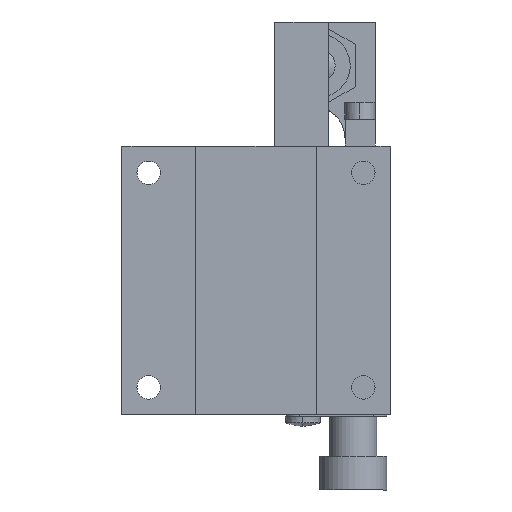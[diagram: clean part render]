
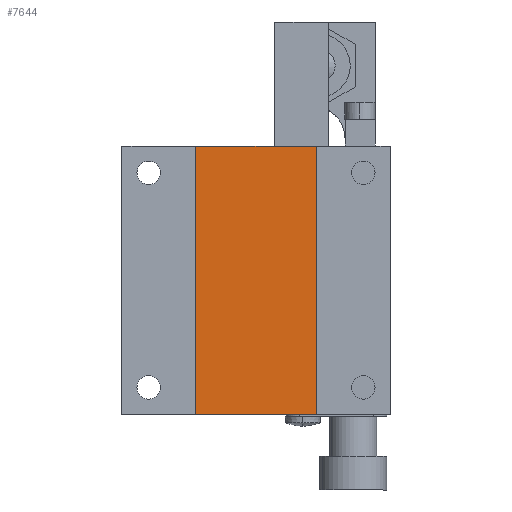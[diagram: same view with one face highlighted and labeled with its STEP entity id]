
A CAD part, front view. The second image highlights one B-rep face of the part: STEP entity #7644.
In plain terms, the highlighted planar face has unit normal (0, -1, 0).
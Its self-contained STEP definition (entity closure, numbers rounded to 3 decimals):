
#2006 = CARTESIAN_POINT ( 'NONE',  ( -9., 0.5, 20. ) ) ;
#2448 = DIRECTION ( 'NONE',  ( 0., 0., 1. ) ) ;
#2449 = VECTOR ( 'NONE', #2448, 1000. ) ;
#2450 = CARTESIAN_POINT ( 'NONE',  ( 9., 0.5, -20. ) ) ;
#2451 = LINE ( 'NONE', #2450, #2449 ) ;
#2554 = CARTESIAN_POINT ( 'NONE',  ( 9., 0.5, 20. ) ) ;
#2555 = DIRECTION ( 'NONE',  ( -1., 0., 0. ) ) ;
#2556 = VECTOR ( 'NONE', #2555, 1000. ) ;
#2557 = CARTESIAN_POINT ( 'NONE',  ( 9., 0.5, 20. ) ) ;
#2558 = LINE ( 'NONE', #2557, #2556 ) ;
#2629 = CARTESIAN_POINT ( 'NONE',  ( -9., 0.5, -20. ) ) ;
#2630 = DIRECTION ( 'NONE',  ( -1., 0., 0. ) ) ;
#2631 = VECTOR ( 'NONE', #2630, 1000. ) ;
#2632 = CARTESIAN_POINT ( 'NONE',  ( 9., 0.5, -20. ) ) ;
#2633 = LINE ( 'NONE', #2632, #2631 ) ;
#2634 = CARTESIAN_POINT ( 'NONE',  ( 9., 0.5, -20. ) ) ;
#2861 = DIRECTION ( 'NONE',  ( 0., 0., 1. ) ) ;
#2862 = VECTOR ( 'NONE', #2861, 1000. ) ;
#2863 = CARTESIAN_POINT ( 'NONE',  ( -9., 0.5, -20. ) ) ;
#2864 = LINE ( 'NONE', #2863, #2862 ) ;
#2865 = DIRECTION ( 'NONE',  ( 0., 0., -1. ) ) ;
#2866 = DIRECTION ( 'NONE',  ( 0., 1., 0. ) ) ;
#2867 = CARTESIAN_POINT ( 'NONE',  ( 9., 0.5, -20. ) ) ;
#2868 = AXIS2_PLACEMENT_3D ( 'NONE', #2867, #2866, #2865 ) ;
#2869 = PLANE ( 'NONE',  #2868 ) ;
#2870 = FACE_OUTER_BOUND ( 'NONE', #7645, .T. ) ;
#7189 = VERTEX_POINT ( 'NONE', #2006 ) ;
#7402 = VERTEX_POINT ( 'NONE', #2634 ) ;
#7404 = EDGE_CURVE ( 'NONE', #7402, #7405, #2633, .T. ) ;
#7405 = VERTEX_POINT ( 'NONE', #2629 ) ;
#7443 = EDGE_CURVE ( 'NONE', #7444, #7189, #2558, .T. ) ;
#7444 = VERTEX_POINT ( 'NONE', #2554 ) ;
#7536 = EDGE_CURVE ( 'NONE', #7402, #7444, #2451, .T. ) ;
#7644 = ADVANCED_FACE ( 'NONE', ( #2870 ), #2869, .F. ) ;
#7645 = EDGE_LOOP ( 'NONE', ( #7646, #7647, #7649, #7650 ) ) ;
#7646 = ORIENTED_EDGE ( 'NONE', *, *, #7443, .T. ) ;
#7647 = ORIENTED_EDGE ( 'NONE', *, *, #7648, .F. ) ;
#7648 = EDGE_CURVE ( 'NONE', #7405, #7189, #2864, .T. ) ;
#7649 = ORIENTED_EDGE ( 'NONE', *, *, #7404, .F. ) ;
#7650 = ORIENTED_EDGE ( 'NONE', *, *, #7536, .T. ) ;
